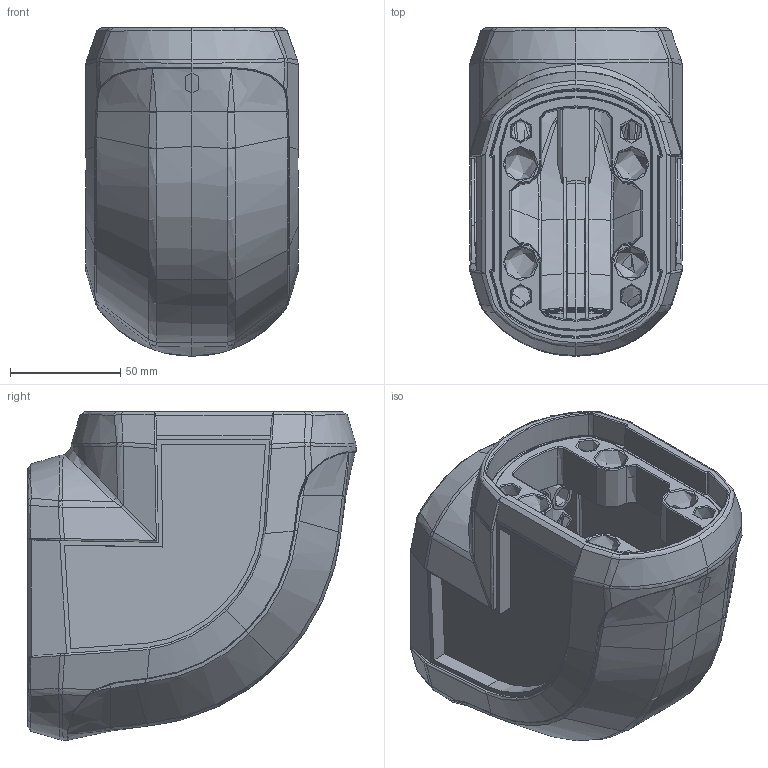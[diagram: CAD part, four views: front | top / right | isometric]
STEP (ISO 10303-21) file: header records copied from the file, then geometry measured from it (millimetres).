
FILE_DESCRIPTION(/* description */ (''),/* implementation_level */ '2;1');
FILE_NAME(/* name */ '75-110-510.stp',/* time_stamp */ '2025-03-19T12:58:23+08:00',/* author */ (''),/* organization */ (''),/* preprocessor_version */ 'ST-DEVELOPER v11',/* originating_system */ 'SIEMENS PLM Software NX 7.0',/* authorisation */ '');
FILE_SCHEMA (('AUTOMOTIVE_DESIGN { 1 0 10303 214 1 1 1 1 }'));
Products named in the file (1): PC615Dcm33
Bounding box: 96.92 x 149.31 x 149.31 mm (x, y, z)
Volume: 356921.7 mm3; surface area: 173399.6 mm2
Topology: 2 solids, 10 shells, 1466 faces, 3581 edges, 2106 vertices
Faces by surface type: bspline 802, cylinder 274, plane 200, torus 101, cone 44, extrusion 25, sphere 20
Full cylindrical faces by diameter (mm): 3.5 x2, 4.5 x1, 8.5 x1, 13.643 x6
Entity records: 83766 total; most frequent: CARTESIAN_POINT 46424, ORIENTED_EDGE 6770, DIRECTION 3764, EDGE_CURVE 3385, VERTEX_POINT 2050, B_SPLINE_CURVE_WITH_KNOTS 1734, EDGE_LOOP 1619, AXIS2_PLACEMENT_3D 1557
